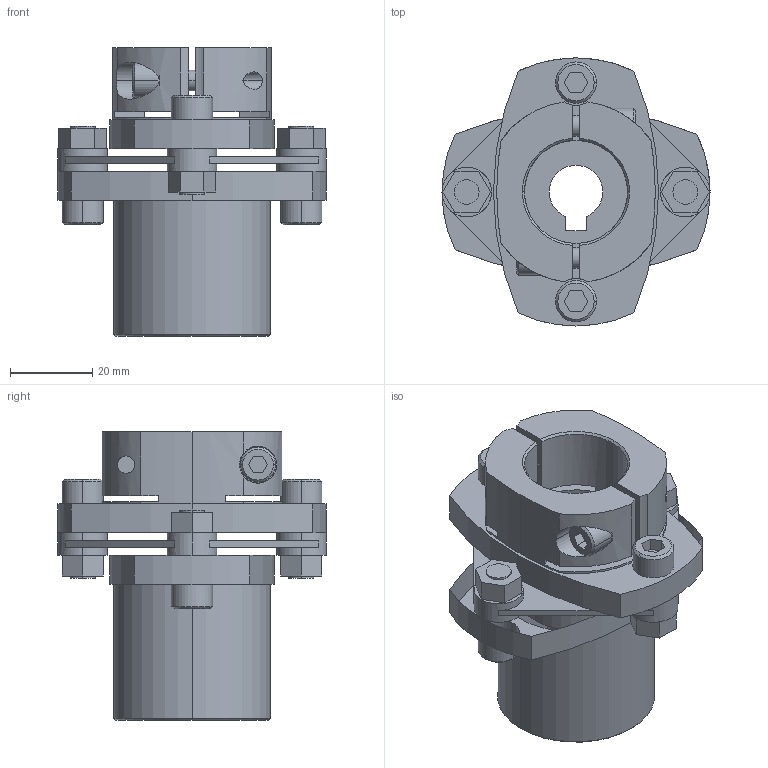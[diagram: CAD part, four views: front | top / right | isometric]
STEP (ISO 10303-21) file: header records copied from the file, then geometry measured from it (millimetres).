
FILE_DESCRIPTION((''),'2;1');
FILE_NAME('LCS-65M-16L亊25B.stp','2011-08-20T16:02:30',(''),(''),'AutoCAD STEP 2000i','AutoCAD 2000i',', , ');
FILE_SCHEMA(('CONFIG_CONTROL_DESIGN'));
Length unit declared in the file: millimetre
Products named in the file (10): LCS-65M-16L×24B; 忣兜1; LC65-B024; LC65-B022; LC65-B016; LC65M-L016; LC65M-L011; LC65-B014-1; LC65-B014; LCS65-ITA
Assembly tree (9 placements, depth 2):
  LCS-65M-16L×24B
    忣兜1
    LC65-B024
    LC65-B022
    LC65-B016
    LC65M-L016
    LC65M-L011
    LC65-B014-1
    LC65-B014
    LCS65-ITA
Bounding box: 65 x 65 x 70 mm (x, y, z)
Volume: 76254.5 mm3; surface area: 28622.7 mm2
Topology: 1 solids, 1 shells, 222 faces, 576 edges, 376 vertices
Faces by surface type: plane 115, cylinder 84, cone 23
Entity records: 7309 total; most frequent: CARTESIAN_POINT 1454, DIRECTION 1246, ORIENTED_EDGE 1152, EDGE_CURVE 576, AXIS2_PLACEMENT_3D 456, VERTEX_POINT 376, VECTOR 334, LINE 334
